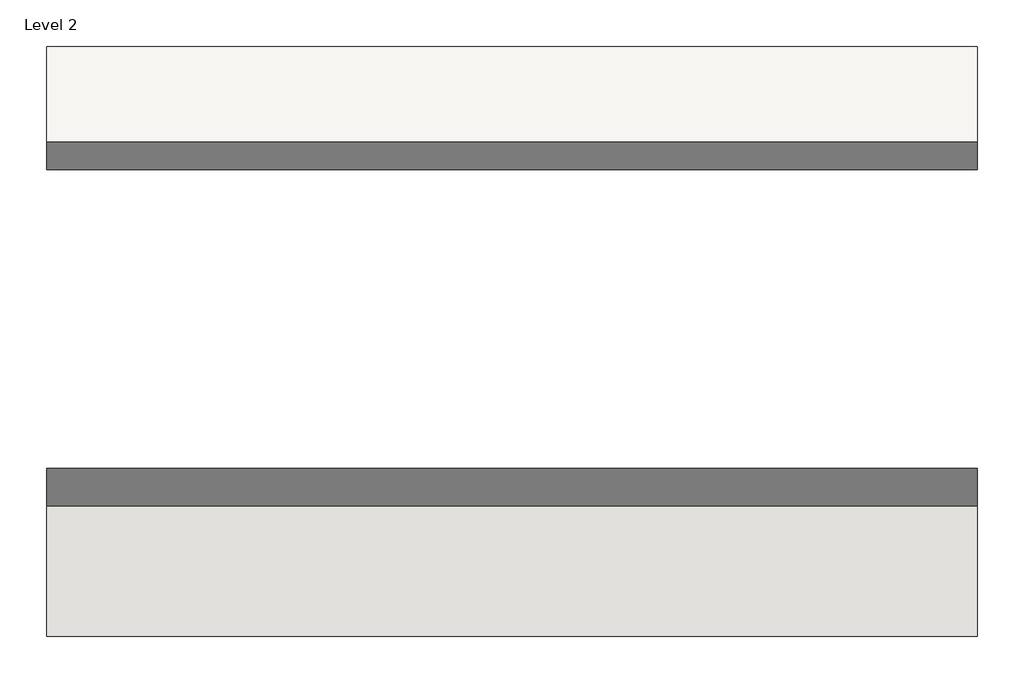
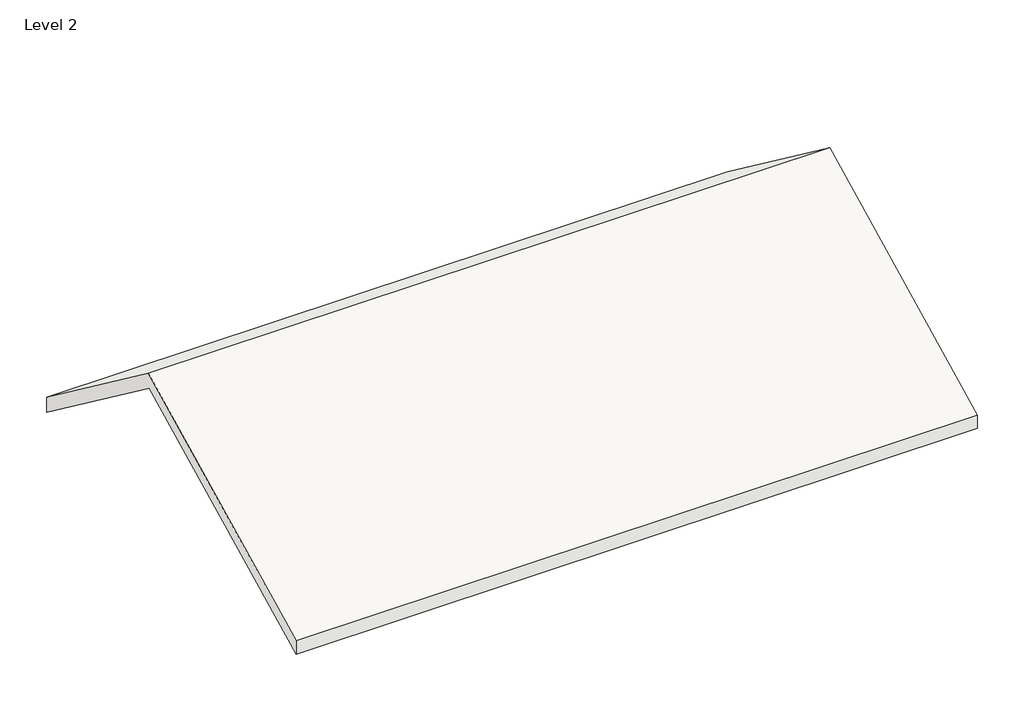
# One storey: 1 roof.
"""IFC4 building model written with IfcOpenShell, lengths in millimetres."""

from ifc_helpers import new_model, si_unit, frame, origin, place, context, project, spatial, polyline, outline, extrude, element, save

model = new_model("IFC4")

# Units and contexts
model_context = context("Model", 3, world=origin())
ifc_project = project(units=[si_unit("LENGTHUNIT", "METRE", prefix="MILLI")], contexts=[model_context])

# Site, building, storey
site = spatial("IfcSite", under=ifc_project)
building = spatial("IfcBuilding", under=site)
storey = spatial("IfcBuildingStorey", under=building, Name="Level 2", Elevation=3048.0)

# Roof
placement = place(None, origin())
element("IfcRoof", 1, ObjectType="Generic - 12\"", at=placement, inside=storey, context=model_context, shape_type="SweptSolid", body=[
    extrude(outline(polyline([(-2826.1877516, 3083.9767598), (3423.9108406, 6209.0260559), (7740.2122484, 2971.8), (7740.2122484, 2590.8), (3391.7322484, 5852.16), (-2826.1877516, 2743.2), (-2826.1877516, 3083.9767598)])), frame((-8205.7466991, 0.0, 0.0), z_axis=(1.0, 0.0, 0.0), x_axis=(0.0, 1.0, 0.0)), (0.0, 0.0, 1.0), 16662.4),
])

save(model, "model.ifc")
